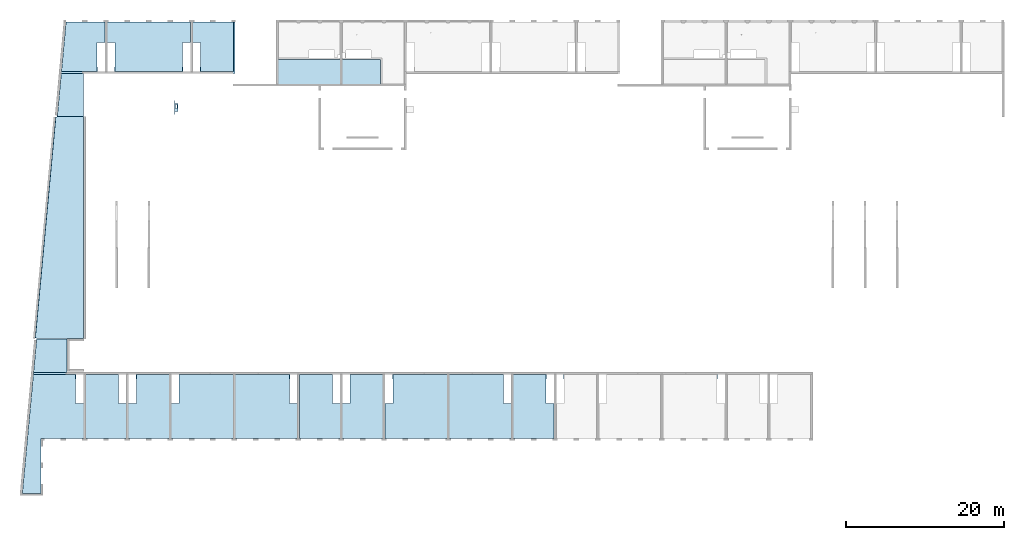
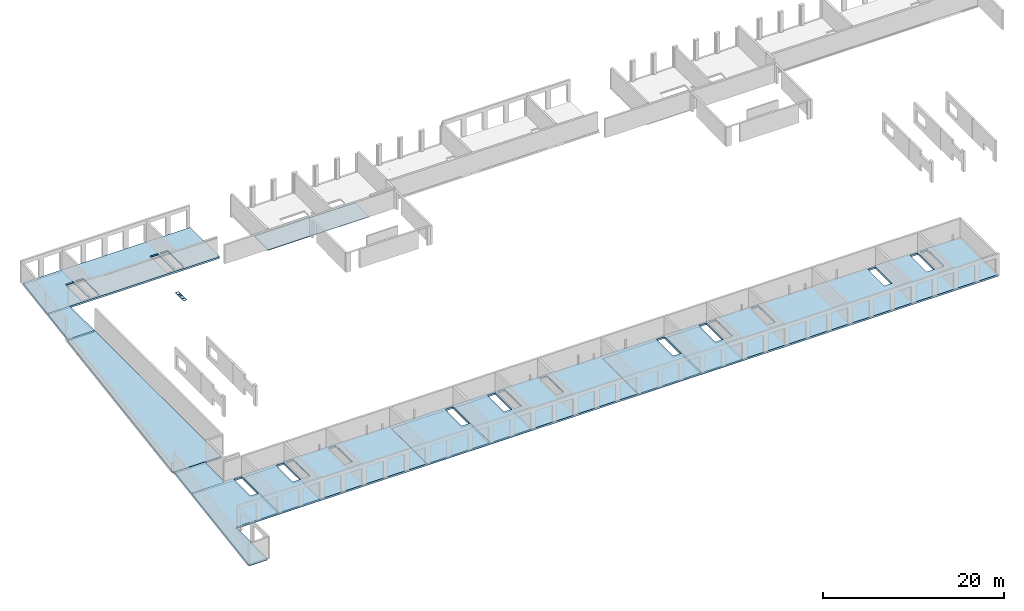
# One storey, part 2 of 12: 21 slabs, 42 openings.
"""IFC2X3 building model written with IfcOpenShell, lengths in millimetres."""

import ifcopenshell
import ifcopenshell.guid

model = None  # the IFC model being written
_history = None  # IfcOwnerHistory: only IFC2X3 demands one
_inside = {}  # id of a spatial element -> (the spatial element, [elements in it])
_under = {}  # id of a project, library or spatial element -> (it, [spatial elements below it])
_declared = {}  # id of a project -> (the project, [libraries it declares])
_typed = {}  # id of a type object -> (the type object, [elements of that type])
_made_of = {}  # id of a material, layer set ... -> (it, [elements and type objects made of it])


def new_model(schema):
    """Start an empty IFC model of exactly this schema.

    Asked for "IFC4X3", IfcOpenShell would pick the latest addendum, in which some entities
    have other attributes; the version numbers below select the first issue.
    IFC2X3 requires an IfcOwnerHistory on every rooted entity: one is made here for all.
    """
    global model, _history
    if schema == "IFC4X3":
        model = ifcopenshell.file(schema_version=(4, 3, 0, 0))
    else:
        model = ifcopenshell.file(schema=schema)
    _inside.clear()
    _under.clear()
    _declared.clear()
    _typed.clear()
    _made_of.clear()
    _history = None
    if model.schema == "IFC2X3":
        org = make("IfcOrganization", Name="unknown")
        user = make(
            "IfcPersonAndOrganization",
            ThePerson=make("IfcPerson", FamilyName="unknown"),
            TheOrganization=org,
        )
        app = make(
            "IfcApplication",
            ApplicationDeveloper=org,
            Version="unknown",
            ApplicationFullName="unknown",
            ApplicationIdentifier="unknown",
        )
        _history = make(
            "IfcOwnerHistory",
            OwningUser=user,
            OwningApplication=app,
            ChangeAction="ADDED",
            CreationDate=0,
        )
    return model


def make(cls, **values):
    """One entity of the class cls with the attributes given. An attribute that is None is left unset."""
    return model.create_entity(
        cls, **{name: value for name, value in values.items() if value is not None}
    )


def entity(cls, *values):
    """Any entity or typed value of the class cls, its attributes in the order of the schema. None: left unset."""
    e = model.create_entity(cls)
    for i, value in enumerate(values):
        if value is not None:
            e[i] = value
    return e


def rooted(cls, **values):
    """An entity with a GlobalId (a new one), such as an element, a storey or a relation."""
    return make(cls, GlobalId=ifcopenshell.guid.new(), OwnerHistory=_history, **values)


def si_unit(unit_type, name, prefix=None):
    """IfcSIUnit, for example si_unit("LENGTHUNIT", "METRE", prefix="MILLI")."""
    return make("IfcSIUnit", UnitType=unit_type, Prefix=prefix, Name=name)


def converted_unit(unit_type, name, factor, base, dimensions=None, offset=None):
    """IfcConversionBasedUnit, such as the inch: factor (a typed value) times the base unit."""
    return make(
        "IfcConversionBasedUnit"
        if offset is None
        else "IfcConversionBasedUnitWithOffset",
        ConversionOffset=offset,
        Dimensions=None
        if dimensions is None
        else entity("IfcDimensionalExponents", *dimensions),
        UnitType=unit_type,
        Name=name,
        ConversionFactor=make(
            "IfcMeasureWithUnit", ValueComponent=factor, UnitComponent=base
        ),
    )


def derived_unit(unit_type, elements):
    """IfcDerivedUnit: a product of units, each with its exponent."""
    return make(
        "IfcDerivedUnit",
        Elements=[
            make("IfcDerivedUnitElement", Unit=unit, Exponent=power)
            for unit, power in elements
        ],
        UnitType=unit_type,
    )


def assignment(units):
    """IfcUnitAssignment: the units of a project."""
    return None if units is None else make("IfcUnitAssignment", Units=units)


def point(xyz):
    """IfcCartesianPoint."""
    return None if xyz is None else make("IfcCartesianPoint", Coordinates=xyz)


def direction(xyz):
    """IfcDirection."""
    return None if xyz is None else make("IfcDirection", DirectionRatios=xyz)


def frame(location, z_axis=None, x_axis=None):
    """IfcAxis2Placement3D, a coordinate frame: its origin and axes. An axis left out is left unset."""
    return make(
        "IfcAxis2Placement3D",
        Location=point(location),
        Axis=direction(z_axis),
        RefDirection=direction(x_axis),
    )


def frame_2d(location, x_axis=None):
    """IfcAxis2Placement2D, a coordinate frame in the plane: its origin and x axis."""
    return make(
        "IfcAxis2Placement2D", Location=point(location), RefDirection=direction(x_axis)
    )


def origin():
    """The frame at (0, 0, 0) with its axes left unset."""
    return frame((0.0, 0.0, 0.0))


def origin_2d_with_axis():
    """The frame at (0, 0) in the plane with the x axis (1, 0) written out."""
    return frame_2d((0.0, 0.0), x_axis=(1.0, 0.0))


def place(relative_to, where):
    """IfcLocalPlacement: puts the frame where relative to a parent placement (None: the world)."""
    return make(
        "IfcLocalPlacement", PlacementRelTo=relative_to, RelativePlacement=where
    )


def context(
    kind, dimensions, precision=None, world=None, true_north=None, identifier=None
):
    """IfcGeometricRepresentationContext, for example the 3D "Model" context."""
    return make(
        "IfcGeometricRepresentationContext",
        ContextIdentifier=identifier,
        ContextType=kind,
        CoordinateSpaceDimension=dimensions,
        Precision=precision,
        WorldCoordinateSystem=world,
        TrueNorth=true_north,
    )


def subcontext(parent, identifier, kind, view, scale=None):
    """IfcGeometricRepresentationSubContext, for example "Body" below "Model"."""
    return make(
        "IfcGeometricRepresentationSubContext",
        ContextIdentifier=identifier,
        ContextType=kind,
        ParentContext=parent,
        TargetScale=scale,
        TargetView=view,
    )


def project(units=None, contexts=None):
    """IfcProject with its units and contexts."""
    return rooted(
        "IfcProject",
        Name="project",
        RepresentationContexts=contexts,
        UnitsInContext=assignment(units),
    )


def spatial(cls, under=None, at=None, **own):
    """A site, building, storey or space (cls), placed at a placement, below another one or the project."""
    s = rooted(cls, ObjectPlacement=at, **own)
    if under is not None:
        _under.setdefault(under.id(), (under, []))[1].append(s)
    return s


def polyline(points):
    """IfcPolyline through the points."""
    return make("IfcPolyline", Points=[point(p) for p in points])


def profile(cls, at=None, kind="AREA", **sizes):
    """A parametric profile (cls). Its sizes go by their IFC names, for example OverallWidth=200.0."""
    return make(cls, ProfileType=kind, Position=at, **sizes)


def rectangle(**sizes):
    """IfcRectangleProfileDef."""
    return profile("IfcRectangleProfileDef", **sizes)


def outline(outer, holes=None, kind="AREA"):
    """IfcArbitraryClosedProfileDef: a profile drawn as a closed curve; with holes, ...WithVoids."""
    if holes is None:
        return make("IfcArbitraryClosedProfileDef", ProfileType=kind, OuterCurve=outer)
    return make(
        "IfcArbitraryProfileDefWithVoids",
        ProfileType=kind,
        OuterCurve=outer,
        InnerCurves=holes,
    )


def extrude(swept, where, along, depth):
    """IfcExtrudedAreaSolid: the profile swept, set in the frame where, extruded along a direction by depth."""
    return make(
        "IfcExtrudedAreaSolid",
        SweptArea=swept,
        Position=where,
        ExtrudedDirection=direction(along),
        Depth=depth,
    )


def shape(context_of_items, identifier, shape_type, items):
    """IfcShapeRepresentation: the items that make up one representation, for example the "Body"."""
    return make(
        "IfcShapeRepresentation",
        ContextOfItems=context_of_items,
        RepresentationIdentifier=identifier,
        RepresentationType=shape_type,
        Items=items,
    )


def material(Name=None, Category=None):
    """IfcMaterial."""
    return make("IfcMaterial", Name=Name, Category=Category)


def layer(
    of_material, thickness, ventilated=None, Name=None, Category=None, Priority=None
):
    """IfcMaterialLayer: one layer of a wall or slab, of a material (None: an air gap)."""
    return make(
        "IfcMaterialLayer",
        Material=of_material,
        LayerThickness=thickness,
        IsVentilated=ventilated,
        Name=Name,
        Category=Category,
        Priority=Priority,
    )


def layer_set(layers, Name=None):
    """IfcMaterialLayerSet."""
    return make("IfcMaterialLayerSet", MaterialLayers=layers, LayerSetName=Name)


def layer_usage(for_layer_set, set_direction, sense, offset, extent=None):
    """IfcMaterialLayerSetUsage: how a layer set lies in its element."""
    return make(
        "IfcMaterialLayerSetUsage",
        ForLayerSet=for_layer_set,
        LayerSetDirection=set_direction,
        DirectionSense=sense,
        OffsetFromReferenceLine=offset,
        ReferenceExtent=extent,
    )


def made_of(thing, what):
    """Note that an element or type object is made of a material, layer set ...; save() writes the relation."""
    if what is not None:
        _made_of.setdefault(what.id(), (what, []))[1].append(thing)
    return thing


def element(
    cls,
    number,
    at=None,
    inside=None,
    cuts=None,
    type_object=None,
    material=None,
    context=None,
    identifier="Body",
    shape_type=None,
    held_by="IfcProductDefinitionShape",
    body=None,
    shapes=None,
    **own,
):
    """One element of the class cls, such as IfcWall. Its Tag is "e" and its number.

    at: its placement. inside: the storey or other place that contains it. cuts: it is an
    opening in that element (IfcRelVoidsElement). A single representation is given by context,
    identifier, shape_type and body (its items); several are given by shapes. held_by: the class
    of the entity that holds the representations. save() writes the other relations.
    """
    e = rooted(cls, Tag="e%d" % number, ObjectPlacement=at, **own)
    if body is not None:
        shapes = [shape(context, identifier, shape_type, body)]
    if shapes is not None:
        e.Representation = make(held_by, Representations=shapes)
    if inside is not None:
        _inside.setdefault(inside.id(), (inside, []))[1].append(e)
    if cuts is not None:
        rooted(
            "IfcRelVoidsElement", RelatingBuildingElement=cuts, RelatedOpeningElement=e
        )
    if type_object is not None:
        _typed.setdefault(type_object.id(), (type_object, []))[1].append(e)
    return made_of(e, material)


def aggregate(whole, parts):
    """IfcRelAggregates: a whole, such as a stair, and the parts it consists of."""
    return rooted("IfcRelAggregates", RelatingObject=whole, RelatedObjects=parts)


def save(model, path):
    """Write the relations noted so far, then the file.

    IfcRelAggregates (storeys below a building ...), IfcRelContainedInSpatialStructure (elements
    in a storey), IfcRelDefinesByType, IfcRelAssociatesMaterial and IfcRelDeclares: one each for
    every whole, place, type object, material and project.
    """
    for whole, parts in _under.values():
        aggregate(whole, parts)
    for where, things in _inside.values():
        rooted(
            "IfcRelContainedInSpatialStructure",
            RelatedElements=things,
            RelatingStructure=where,
        )
    for kind, things in _typed.values():
        rooted("IfcRelDefinesByType", RelatedObjects=things, RelatingType=kind)
    for what, things in _made_of.values():
        rooted("IfcRelAssociatesMaterial", RelatedObjects=things, RelatingMaterial=what)
    for by, libraries in _declared.values():
        rooted("IfcRelDeclares", RelatingContext=by, RelatedDefinitions=libraries)
    model.write(path)


model = new_model("IFC2X3")

# Units and contexts
model_context = context("Model", 3, precision=0.01, world=origin(), true_north=direction((6.12303176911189e-17, 1.0)))
body_context = subcontext(model_context, "Body", "Model", "MODEL_VIEW")
ifc_project = project(units=[si_unit("LENGTHUNIT", "METRE", prefix="MILLI"), si_unit("AREAUNIT", "SQUARE_METRE"), si_unit("VOLUMEUNIT", "CUBIC_METRE"), converted_unit("PLANEANGLEUNIT", "DEGREE", entity("IfcRatioMeasure", 0.0174532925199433), si_unit("PLANEANGLEUNIT", "RADIAN"), dimensions=[0, 0, 0, 0, 0, 0, 0]), si_unit("MASSUNIT", "GRAM", prefix="KILO"), derived_unit("MASSDENSITYUNIT", [(si_unit("MASSUNIT", "GRAM", prefix="KILO"), 1), (si_unit("LENGTHUNIT", "METRE"), -3)]), si_unit("TIMEUNIT", "SECOND"), si_unit("FREQUENCYUNIT", "HERTZ"), si_unit("THERMODYNAMICTEMPERATUREUNIT", "DEGREE_CELSIUS"), derived_unit("THERMALTRANSMITTANCEUNIT", [(si_unit("MASSUNIT", "GRAM", prefix="KILO"), 1), (si_unit("THERMODYNAMICTEMPERATUREUNIT", "KELVIN"), -1), (si_unit("TIMEUNIT", "SECOND"), -3)]), derived_unit("VOLUMETRICFLOWRATEUNIT", [(si_unit("LENGTHUNIT", "METRE"), 3), (si_unit("TIMEUNIT", "SECOND"), -1)]), si_unit("ELECTRICCURRENTUNIT", "AMPERE"), si_unit("ELECTRICVOLTAGEUNIT", "VOLT"), si_unit("POWERUNIT", "WATT"), si_unit("FORCEUNIT", "NEWTON", prefix="KILO"), si_unit("ILLUMINANCEUNIT", "LUX"), si_unit("LUMINOUSFLUXUNIT", "LUMEN"), si_unit("LUMINOUSINTENSITYUNIT", "CANDELA"), derived_unit("USERDEFINED", [(si_unit("MASSUNIT", "GRAM", prefix="KILO"), -1), (si_unit("LENGTHUNIT", "METRE"), -2), (si_unit("TIMEUNIT", "SECOND"), 3), (si_unit("LUMINOUSFLUXUNIT", "LUMEN"), 1)]), derived_unit("LINEARVELOCITYUNIT", [(si_unit("LENGTHUNIT", "METRE"), 1), (si_unit("TIMEUNIT", "SECOND"), -1)]), si_unit("PRESSUREUNIT", "PASCAL"), derived_unit("USERDEFINED", [(si_unit("LENGTHUNIT", "METRE"), -2), (si_unit("MASSUNIT", "GRAM", prefix="KILO"), 1), (si_unit("TIMEUNIT", "SECOND"), -2)])], contexts=[model_context])

# Site, building, storey
site_placement = place(None, origin())
site = spatial("IfcSite", under=ifc_project, at=site_placement, Name="Default", CompositionType="ELEMENT")
building_placement = place(site_placement, origin())
building = spatial("IfcBuilding", under=site, at=building_placement, Name="niet gebruiken", CompositionType="ELEMENT")
storey_placement = place(building_placement, frame((0.0, 0.0, 6660.0)))
storey = spatial("IfcBuildingStorey", under=building, at=storey_placement, Name="02 tweede verdieping", CompositionType="ELEMENT", Elevation=6660.00000000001)

# Slab, openings
ifc_material_1 = material(Name="NLRS_f2_beton ihwg")
ifc_layer_1 = layer(ifc_material_1, 250.0)
ifc_layer_set_1 = layer_set([ifc_layer_1], Name="Floor:NLRS_23.21_FL_breedplaat d=70/250_schil apart_gen")
ifc_layer_usage_1 = layer_usage(ifc_layer_set_1, "AXIS3", "POSITIVE", 0.0)
slab_1_placement = place(storey_placement, frame((4621.46449529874, 41061.0, -340.0)))
slab_1 = element("IfcSlab", 1, at=slab_1_placement, inside=storey, material=ifc_layer_usage_1, Name="Floor:NLRS_23.21_FL_breedplaat d=70/250_schil apart_gen", ObjectType="Floor:NLRS_23.21_FL_breedplaat d=70/250_schil apart_gen", PredefinedType="FLOOR", context=body_context, shape_type="SweptSolid", body=[
    extrude(outline(polyline([(10132.0254614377, 5972.49999999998), (-11239.2677523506, 5972.49999999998), (-11239.2677523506, -537.500000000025), (7885.73224764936, -537.499999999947), (7885.73224764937, -5972.49999999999), (11239.2677523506, -5972.49999999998), (11222.573548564, -5792.40187164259), (10132.0254614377, 5972.49999999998)])), frame((11239.2677523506, 5972.49999999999, 250.0), z_axis=(0.0, 0.0, -1.0), x_axis=(-1.0, 0.0, 0.0)), (0.0, 0.0, 1.0), 249.999999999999),
])
opening_1_placement = place(slab_1_placement, origin())
element("IfcOpeningElement", 2, at=opening_1_placement, cuts=slab_1, ObjectType="Opening", context=body_context, shape_type="SweptSolid", body=[
    extrude(rectangle(XDim=580.000000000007, YDim=970.000000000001, at=origin_2d_with_axis()), frame((5568.53550470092, 5975.0, 0.0), z_axis=(0.0, 0.0, 1.0), x_axis=(0.0, -1.0, 0.0)), (0.0, 0.0, 1.0), 249.999999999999),
])
opening_2_placement = place(slab_1_placement, origin())
element("IfcOpeningElement", 3, at=opening_2_placement, cuts=slab_1, ObjectType="Opening", context=body_context, shape_type="SweptSolid", body=[
    extrude(rectangle(XDim=1000.0, YDim=3100.00000000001, at=origin_2d_with_axis()), frame((5553.53550470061, 7815.0, 0.0), z_axis=(0.0, 0.0, 1.0), x_axis=(-1.0, 0.0, 0.0)), (0.0, 0.0, 1.0), 250.000000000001),
])
opening_3_placement = place(slab_1_placement, origin())
element("IfcOpeningElement", 4, at=opening_3_placement, cuts=slab_1, ObjectType="Opening", context=body_context, shape_type="SweptSolid", body=[
    extrude(rectangle(XDim=580.000000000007, YDim=970.0, at=origin_2d_with_axis()), frame((6788.53550470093, 5975.0, 0.0), z_axis=(0.0, 0.0, 1.0), x_axis=(0.0, -1.0, 0.0)), (0.0, 0.0, 1.0), 249.999999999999),
])
opening_4_placement = place(slab_1_placement, origin())
element("IfcOpeningElement", 5, at=opening_4_placement, cuts=slab_1, ObjectType="Opening", context=body_context, shape_type="SweptSolid", body=[
    extrude(rectangle(XDim=3100.00000000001, YDim=1000.0, at=origin_2d_with_axis()), frame((6803.53550470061, 7815.0, 0.0), z_axis=(0.0, 0.0, 1.0), x_axis=(0.0, -1.0, 0.0)), (0.0, 0.0, 1.0), 250.000000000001),
])
opening_5_placement = place(slab_1_placement, origin())
element("IfcOpeningElement", 6, at=opening_5_placement, cuts=slab_1, ObjectType="Opening", context=body_context, shape_type="SweptSolid", body=[
    extrude(rectangle(XDim=1000.0, YDim=3100.00000000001, at=origin_2d_with_axis()), frame((17603.5355047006, 7815.0, 0.0), z_axis=(0.0, 0.0, 1.0), x_axis=(-1.0, 0.0, 0.0)), (0.0, 0.0, 1.0), 250.000000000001),
])
opening_6_placement = place(slab_1_placement, origin())
element("IfcOpeningElement", 7, at=opening_6_placement, cuts=slab_1, ObjectType="Opening", context=body_context, shape_type="SweptSolid", body=[
    extrude(rectangle(XDim=580.000000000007, YDim=970.0, at=origin_2d_with_axis()), frame((17588.5355047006, 5975.0, 0.0), z_axis=(0.0, 0.0, 1.0), x_axis=(0.0, -1.0, 0.0)), (0.0, 0.0, 1.0), 249.999999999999),
])
opening_7_placement = place(slab_1_placement, origin())
element("IfcOpeningElement", 8, at=opening_7_placement, cuts=slab_1, ObjectType="Opening", context=body_context, shape_type="SweptSolid", body=[
    extrude(rectangle(XDim=1000.0, YDim=3100.00000000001, at=origin_2d_with_axis()), frame((16353.5355047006, 7815.0, 0.0), z_axis=(0.0, 0.0, 1.0), x_axis=(-1.0, 0.0, 0.0)), (0.0, 0.0, 1.0), 250.000000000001),
])
opening_8_placement = place(slab_1_placement, origin())
element("IfcOpeningElement", 9, at=opening_8_placement, cuts=slab_1, ObjectType="Opening", context=body_context, shape_type="SweptSolid", body=[
    extrude(rectangle(XDim=580.000000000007, YDim=970.0, at=origin_2d_with_axis()), frame((16368.5355047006, 5975.0, 0.0), z_axis=(0.0, 0.0, 1.0), x_axis=(0.0, -1.0, 0.0)), (0.0, 0.0, 1.0), 249.999999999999),
])

ifc_layer_usage_2 = layer_usage(ifc_layer_set_1, "AXIS3", "POSITIVE", 0.0)
slab_2_placement = place(storey_placement, frame((205.382258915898, -6580.0, -340.0)))
slab_2 = element("IfcSlab", 10, at=slab_2_placement, inside=storey, material=ifc_layer_usage_2, Name="Floor:NLRS_23.21_FL_breedplaat d=70/250_schil apart_gen", ObjectType="Floor:NLRS_23.21_FL_breedplaat d=70/250_schil apart_gen", PredefinedType="FLOOR", context=body_context, shape_type="SweptSolid", body=[
    extrude(outline(polyline([(50293.3272470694, -7627.45000057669), (48493.8581047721, 11785.4753232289), (48479.6689420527, 11938.5499994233), (44623.7095059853, 11938.5499994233), (44623.7095059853, 7698.54999942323), (-49526.2904940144, 7698.54999942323), (-49526.2904940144, -647.450000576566), (47898.7095059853, -647.450000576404), (47898.7095059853, -7627.4500005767), (50293.3272470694, -7627.45000057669)])), frame((50293.3272470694, 7627.4500005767, 250.0), z_axis=(0.0, 0.0, -1.0), x_axis=(-1.0, 0.0, 0.0)), (0.0, 0.0, 1.0), 250.0),
])
opening_9_placement = place(slab_2_placement, origin())
element("IfcOpeningElement", 11, at=opening_9_placement, cuts=slab_2, ObjectType="Opening", context=body_context, shape_type="SweptSolid", body=[
    extrude(rectangle(XDim=3100.0, YDim=1000.0, at=origin_2d_with_axis()), frame((7269.61774108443, 12946.0, 0.0), z_axis=(0.0, 0.0, 1.0), x_axis=(0.0, 1.0, 0.0)), (0.0, 0.0, 1.0), 250.000000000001),
])
opening_10_placement = place(slab_2_placement, origin())
element("IfcOpeningElement", 12, at=opening_10_placement, cuts=slab_2, ObjectType="Opening", context=body_context, shape_type="SweptSolid", body=[
    extrude(rectangle(XDim=970.000000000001, YDim=580.000000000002, at=origin_2d_with_axis()), frame((7284.61774108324, 14786.0, 0.0)), (0.0, 0.0, 1.0), 249.999999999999),
])
opening_11_placement = place(slab_2_placement, origin())
element("IfcOpeningElement", 13, at=opening_11_placement, cuts=slab_2, ObjectType="Opening", context=body_context, shape_type="SweptSolid", body=[
    extrude(rectangle(XDim=3100.0, YDim=1000.0, at=origin_2d_with_axis()), frame((13919.6177410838, 12946.0, 0.0), z_axis=(0.0, 0.0, 1.0), x_axis=(0.0, 1.0, 0.0)), (0.0, 0.0, 1.0), 250.000000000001),
])
opening_12_placement = place(slab_2_placement, origin())
element("IfcOpeningElement", 14, at=opening_12_placement, cuts=slab_2, ObjectType="Opening", context=body_context, shape_type="SweptSolid", body=[
    extrude(rectangle(XDim=970.0, YDim=580.000000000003, at=origin_2d_with_axis()), frame((13904.6177410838, 14786.0, 0.0)), (0.0, 0.0, 1.0), 249.999999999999),
])
opening_13_placement = place(slab_2_placement, origin())
element("IfcOpeningElement", 15, at=opening_13_placement, cuts=slab_2, ObjectType="Opening", context=body_context, shape_type="SweptSolid", body=[
    extrude(rectangle(XDim=3100.0, YDim=1000.0, at=origin_2d_with_axis()), frame((12669.6177410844, 12946.0, 0.0), z_axis=(0.0, 0.0, 1.0), x_axis=(0.0, 1.0, 0.0)), (0.0, 0.0, 1.0), 250.000000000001),
])
opening_14_placement = place(slab_2_placement, origin())
element("IfcOpeningElement", 16, at=opening_14_placement, cuts=slab_2, ObjectType="Opening", context=body_context, shape_type="SweptSolid", body=[
    extrude(rectangle(XDim=970.0, YDim=580.000000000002, at=origin_2d_with_axis()), frame((12684.6177410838, 14786.0, 0.0)), (0.0, 0.0, 1.0), 249.999999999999),
])
opening_15_placement = place(slab_2_placement, origin())
element("IfcOpeningElement", 17, at=opening_15_placement, cuts=slab_2, ObjectType="Opening", context=body_context, shape_type="SweptSolid", body=[
    extrude(rectangle(XDim=3100.0, YDim=1000.0, at=origin_2d_with_axis()), frame((19319.6177410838, 12946.0, 0.0), z_axis=(0.0, 0.0, 1.0), x_axis=(0.0, 1.0, 0.0)), (0.0, 0.0, 1.0), 250.000000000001),
])
opening_16_placement = place(slab_2_placement, origin())
element("IfcOpeningElement", 18, at=opening_16_placement, cuts=slab_2, ObjectType="Opening", context=body_context, shape_type="SweptSolid", body=[
    extrude(rectangle(XDim=970.0, YDim=580.000000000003, at=origin_2d_with_axis()), frame((19304.6177410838, 14786.0, 0.0)), (0.0, 0.0, 1.0), 249.999999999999),
])
opening_17_placement = place(slab_2_placement, origin())
element("IfcOpeningElement", 19, at=opening_17_placement, cuts=slab_2, ObjectType="Opening", context=body_context, shape_type="SweptSolid", body=[
    extrude(rectangle(XDim=3100.0, YDim=1000.0, at=origin_2d_with_axis()), frame((34269.6177410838, 12946.0, 0.0), z_axis=(0.0, 0.0, 1.0), x_axis=(0.0, 1.0, 0.0)), (0.0, 0.0, 1.0), 250.000000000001),
])
opening_18_placement = place(slab_2_placement, origin())
element("IfcOpeningElement", 20, at=opening_18_placement, cuts=slab_2, ObjectType="Opening", context=body_context, shape_type="SweptSolid", body=[
    extrude(rectangle(XDim=970.0, YDim=580.000000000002, at=origin_2d_with_axis()), frame((34284.6177410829, 14786.0, 0.0)), (0.0, 0.0, 1.0), 249.999999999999),
])
opening_19_placement = place(slab_2_placement, origin())
element("IfcOpeningElement", 21, at=opening_19_placement, cuts=slab_2, ObjectType="Opening", context=body_context, shape_type="SweptSolid", body=[
    extrude(rectangle(XDim=3100.0, YDim=999.999999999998, at=origin_2d_with_axis()), frame((40919.6177410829, 12946.0, 0.0), z_axis=(0.0, 0.0, 1.0), x_axis=(0.0, 1.0, 0.0)), (0.0, 0.0, 1.0), 250.000000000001),
])
opening_20_placement = place(slab_2_placement, origin())
element("IfcOpeningElement", 22, at=opening_20_placement, cuts=slab_2, ObjectType="Opening", context=body_context, shape_type="SweptSolid", body=[
    extrude(rectangle(XDim=970.000000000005, YDim=580.000000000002, at=origin_2d_with_axis()), frame((40904.6177410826, 14786.0, 0.0)), (0.0, 0.0, 1.0), 249.999999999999),
])
opening_21_placement = place(slab_2_placement, origin())
element("IfcOpeningElement", 23, at=opening_21_placement, cuts=slab_2, ObjectType="Opening", context=body_context, shape_type="SweptSolid", body=[
    extrude(rectangle(XDim=3100.0, YDim=999.999999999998, at=origin_2d_with_axis()), frame((39669.6177410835, 12946.0, 0.0), z_axis=(0.0, 0.0, 1.0), x_axis=(0.0, 1.0, 0.0)), (0.0, 0.0, 1.0), 250.000000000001),
])
opening_22_placement = place(slab_2_placement, origin())
element("IfcOpeningElement", 24, at=opening_22_placement, cuts=slab_2, ObjectType="Opening", context=body_context, shape_type="SweptSolid", body=[
    extrude(rectangle(XDim=970.000000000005, YDim=580.000000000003, at=origin_2d_with_axis()), frame((39684.6177410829, 14786.0, 0.0)), (0.0, 0.0, 1.0), 249.999999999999),
])
opening_23_placement = place(slab_2_placement, origin())
element("IfcOpeningElement", 25, at=opening_23_placement, cuts=slab_2, ObjectType="Opening", context=body_context, shape_type="SweptSolid", body=[
    extrude(rectangle(XDim=3100.0, YDim=999.999999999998, at=origin_2d_with_axis()), frame((46319.6177410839, 12946.0, 0.0), z_axis=(0.0, 0.0, 1.0), x_axis=(0.0, 1.0, 0.0)), (0.0, 0.0, 1.0), 250.000000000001),
])
opening_24_placement = place(slab_2_placement, origin())
element("IfcOpeningElement", 26, at=opening_24_placement, cuts=slab_2, ObjectType="Opening", context=body_context, shape_type="SweptSolid", body=[
    extrude(rectangle(XDim=970.000000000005, YDim=580.000000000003, at=origin_2d_with_axis()), frame((46304.6177410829, 14786.0, 0.0)), (0.0, 0.0, 1.0), 249.999999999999),
])
opening_25_placement = place(slab_2_placement, origin())
element("IfcOpeningElement", 27, at=opening_25_placement, cuts=slab_2, ObjectType="Opening", context=body_context, shape_type="SweptSolid", body=[
    extrude(rectangle(XDim=3100.0, YDim=999.999999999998, at=origin_2d_with_axis()), frame((61269.6177410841, 12946.0, 0.0), z_axis=(0.0, 0.0, 1.0), x_axis=(0.0, 1.0, 0.0)), (0.0, 0.0, 1.0), 250.000000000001),
])
opening_26_placement = place(slab_2_placement, origin())
element("IfcOpeningElement", 28, at=opening_26_placement, cuts=slab_2, ObjectType="Opening", context=body_context, shape_type="SweptSolid", body=[
    extrude(rectangle(XDim=970.000000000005, YDim=580.000000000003, at=origin_2d_with_axis()), frame((61284.6177410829, 14786.0, 0.0)), (0.0, 0.0, 1.0), 249.999999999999),
])
opening_27_placement = place(slab_2_placement, origin())
element("IfcOpeningElement", 29, at=opening_27_placement, cuts=slab_2, ObjectType="Opening", context=body_context, shape_type="SweptSolid", body=[
    extrude(rectangle(XDim=3100.0, YDim=999.999999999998, at=origin_2d_with_axis()), frame((67919.6177410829, 12946.0, 0.0), z_axis=(0.0, 0.0, 1.0), x_axis=(0.0, 1.0, 0.0)), (0.0, 0.0, 1.0), 250.000000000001),
])
opening_28_placement = place(slab_2_placement, origin())
element("IfcOpeningElement", 30, at=opening_28_placement, cuts=slab_2, ObjectType="Opening", context=body_context, shape_type="SweptSolid", body=[
    extrude(rectangle(XDim=970.000000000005, YDim=580.000000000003, at=origin_2d_with_axis()), frame((67904.6177410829, 14786.0, 0.0)), (0.0, 0.0, 1.0), 249.999999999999),
])
opening_29_placement = place(slab_2_placement, origin())
element("IfcOpeningElement", 31, at=opening_29_placement, cuts=slab_2, ObjectType="Opening", context=body_context, shape_type="SweptSolid", body=[
    extrude(rectangle(XDim=3100.0, YDim=999.999999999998, at=origin_2d_with_axis()), frame((66669.6177410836, 12946.0, 0.0), z_axis=(0.0, 0.0, 1.0), x_axis=(0.0, 1.0, 0.0)), (0.0, 0.0, 1.0), 250.000000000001),
])
opening_30_placement = place(slab_2_placement, origin())
element("IfcOpeningElement", 32, at=opening_30_placement, cuts=slab_2, ObjectType="Opening", context=body_context, shape_type="SweptSolid", body=[
    extrude(rectangle(XDim=970.000000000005, YDim=580.000000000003, at=origin_2d_with_axis()), frame((66684.6177410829, 14786.0, 0.0)), (0.0, 0.0, 1.0), 249.999999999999),
])
opening_31_placement = place(slab_2_placement, origin())
element("IfcOpeningElement", 33, at=opening_31_placement, cuts=slab_2, ObjectType="Opening", context=body_context, shape_type="SweptSolid", body=[
    extrude(rectangle(XDim=3100.0, YDim=999.999999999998, at=origin_2d_with_axis()), frame((73319.6177410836, 12946.0, 0.0), z_axis=(0.0, 0.0, 1.0), x_axis=(0.0, 1.0, 0.0)), (0.0, 0.0, 1.0), 250.000000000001),
])
opening_32_placement = place(slab_2_placement, origin())
element("IfcOpeningElement", 34, at=opening_32_placement, cuts=slab_2, ObjectType="Opening", context=body_context, shape_type="SweptSolid", body=[
    extrude(rectangle(XDim=970.000000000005, YDim=580.000000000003, at=origin_2d_with_axis()), frame((73304.6177410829, 14786.0, 0.0)), (0.0, 0.0, 1.0), 249.999999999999),
])
opening_33_placement = place(slab_2_placement, origin())
element("IfcOpeningElement", 35, at=opening_33_placement, cuts=slab_2, ObjectType="Opening", context=body_context, shape_type="SweptSolid", body=[
    extrude(rectangle(XDim=3100.0, YDim=999.999999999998, at=origin_2d_with_axis()), frame((88269.6177410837, 12946.0, 0.0), z_axis=(0.0, 0.0, 1.0), x_axis=(0.0, 1.0, 0.0)), (0.0, 0.0, 1.0), 250.000000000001),
])
opening_34_placement = place(slab_2_placement, origin())
element("IfcOpeningElement", 36, at=opening_34_placement, cuts=slab_2, ObjectType="Opening", context=body_context, shape_type="SweptSolid", body=[
    extrude(rectangle(XDim=970.000000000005, YDim=580.000000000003, at=origin_2d_with_axis()), frame((88284.6177410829, 14786.0, 0.0)), (0.0, 0.0, 1.0), 249.999999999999),
])
opening_35_placement = place(slab_2_placement, origin())
element("IfcOpeningElement", 37, at=opening_35_placement, cuts=slab_2, ObjectType="Opening", context=body_context, shape_type="SweptSolid", body=[
    extrude(rectangle(XDim=3100.0, YDim=999.999999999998, at=origin_2d_with_axis()), frame((93669.6177410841, 12946.0, 0.0), z_axis=(0.0, 0.0, 1.0), x_axis=(0.0, 1.0, 0.0)), (0.0, 0.0, 1.0), 250.000000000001),
])
opening_36_placement = place(slab_2_placement, origin())
element("IfcOpeningElement", 38, at=opening_36_placement, cuts=slab_2, ObjectType="Opening", context=body_context, shape_type="SweptSolid", body=[
    extrude(rectangle(XDim=970.000000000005, YDim=580.000000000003, at=origin_2d_with_axis()), frame((93684.6177410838, 14786.0, 0.0)), (0.0, 0.0, 1.0), 249.999999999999),
])
opening_37_placement = place(slab_2_placement, origin())
element("IfcOpeningElement", 39, at=opening_37_placement, cuts=slab_2, ObjectType="Opening", context=body_context, shape_type="SweptSolid", body=[
    extrude(rectangle(XDim=3100.0, YDim=999.999999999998, at=origin_2d_with_axis()), frame((94919.6177410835, 12946.0, 0.0), z_axis=(0.0, 0.0, 1.0), x_axis=(0.0, 1.0, 0.0)), (0.0, 0.0, 1.0), 250.000000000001),
])
opening_38_placement = place(slab_2_placement, origin())
element("IfcOpeningElement", 40, at=opening_38_placement, cuts=slab_2, ObjectType="Opening", context=body_context, shape_type="SweptSolid", body=[
    extrude(rectangle(XDim=970.000000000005, YDim=580.000000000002, at=origin_2d_with_axis()), frame((94904.6177410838, 14786.0, 0.0)), (0.0, 0.0, 1.0), 249.999999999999),
])

# Slabs
ifc_material_2 = material(Name="NLRS_f2_beton prefab")
ifc_layer_2 = layer(ifc_material_2, 200.0)
ifc_layer_set_2 = layer_set([ifc_layer_2], Name="Floor:NLRS_23.21_FL_kanaalplaat d=200_gen")
ifc_layer_usage_3 = layer_usage(ifc_layer_set_2, "AXIS3", "POSITIVE", 0.0)
slab_3_placement = place(storey_placement, origin())
element("IfcSlab", 41, at=slab_3_placement, inside=storey, material=ifc_layer_usage_3, Name="Floor:NLRS_23.21_FL_kanaalplaat d=200_gen", ObjectType="Floor:NLRS_23.21_FL_kanaalplaat d=200_gen", PredefinedType="FLOOR", context=body_context, shape_type="SweptSolid", body=[
    extrude(outline(polyline([(-3505.03478615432, -14032.4934392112), (2408.98502353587, -14032.4934392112), (2400.27853506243, -13938.5666212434), (2579.51018056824, -13921.9528543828), (-3.92934390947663, 13948.5548350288), (-183.189801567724, 13931.9383974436), (-191.585021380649, 14022.5065607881), (-3505.03478615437, 14022.5065607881), (-3505.03478615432, -14032.4934392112)])), frame((4449.96521384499, 27038.4934392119, -140.0), z_axis=(0.0, 0.0, -1.0), x_axis=(-1.0, 0.0, 0.0)), (0.0, 0.0, 1.0), 200.0),
])
ifc_layer_3 = layer(ifc_material_1, 50.0)
ifc_layer_set_3 = layer_set([ifc_layer_3], Name="Floor:NLRS_23.21_FL_druklaag d=50_gen")
ifc_layer_usage_4 = layer_usage(ifc_layer_set_3, "AXIS3", "POSITIVE", 0.0)
slab_4_placement = place(storey_placement, origin())
element("IfcSlab", 42, at=slab_4_placement, inside=storey, material=ifc_layer_usage_4, Name="Floor:NLRS_23.21_FL_druklaag d=50_gen", ObjectType="Floor:NLRS_23.21_FL_druklaag d=50_gen", PredefinedType="FLOOR", context=body_context, shape_type="SweptSolid", body=[
    extrude(outline(polyline([(-3242.02111435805, -11242.7246600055), (-1172.02111435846, -11242.7246600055), (-1172.02111435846, -11222.7246600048), (2712.0844340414, -11222.7246600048), (2705.05280823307, -11146.8664952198), (2884.28445373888, -11130.2527283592), (297.157113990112, 16780.0396290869), (117.943725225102, 16763.4275545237), (111.5619222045, 16832.2753399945), (-3242.0211143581, 16832.2753399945), (-3242.02111435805, -11242.7246600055)])), frame((4732.97888564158, 24228.7246600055, -90.0), z_axis=(0.0, 0.0, -1.0), x_axis=(-1.0, 0.0, 0.0)), (0.0, 0.0, 1.0), 50.0000000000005),
])
ifc_layer_4 = layer(ifc_material_2, 70.0)
ifc_layer_set_4 = layer_set([ifc_layer_4], Name="Floor:NLRS_23.21_FL_breedplaatschil d=70_gen")
ifc_layer_usage_5 = layer_usage(ifc_layer_set_4, "AXIS3", "POSITIVE", 0.0)
slab_5_placement = place(storey_placement, origin())
element("IfcSlab", 43, at=slab_5_placement, inside=storey, material=ifc_layer_usage_5, Name="Floor:NLRS_23.21_FL_breedplaatschil d=70_gen", ObjectType="Floor:NLRS_23.21_FL_breedplaatschil d=70_gen", PredefinedType="FLOOR", context=body_context, shape_type="SweptSolid", body=[
    extrude(outline(polyline([(-4164.0, -3120.0), (3932.0, -3120.0), (3932.0, 1050.0), (232.0, 1050.0), (232.0, 2070.0), (-4164.0, 2070.0), (-4164.0, -3120.0)])), frame((11325.0, 4584.0, -270.0), z_axis=(0.0, 0.0, -1.0), x_axis=(0.0, 1.0, 0.0)), (0.0, 0.0, 1.0), 70.0000000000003),
])
ifc_layer_usage_6 = layer_usage(ifc_layer_set_4, "AXIS3", "POSITIVE", 0.0)
slab_6_placement = place(storey_placement, origin())
element("IfcSlab", 44, at=slab_6_placement, inside=storey, material=ifc_layer_usage_6, Name="Floor:NLRS_23.21_FL_breedplaatschil d=70_gen", ObjectType="Floor:NLRS_23.21_FL_breedplaatschil d=70_gen", PredefinedType="FLOOR", context=body_context, shape_type="SweptSolid", body=[
    extrude(outline(polyline([(-4164.0, -2070.0), (232.0, -2070.0), (232.0, -1050.0), (3932.0, -1050.0), (3932.0, 3120.0), (-4164.0, 3120.0), (-4164.0, -2070.0)])), frame((15675.0, 4584.0, -270.0), z_axis=(0.0, 0.0, -1.0), x_axis=(0.0, 1.0, 0.0)), (0.0, 0.0, 1.0), 70.0000000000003),
])
ifc_layer_usage_7 = layer_usage(ifc_layer_set_4, "AXIS3", "POSITIVE", 0.0)
slab_7_placement = place(storey_placement, origin())
element("IfcSlab", 45, at=slab_7_placement, inside=storey, material=ifc_layer_usage_7, Name="Floor:NLRS_23.21_FL_breedplaatschil d=70_gen", ObjectType="Floor:NLRS_23.21_FL_breedplaatschil d=70_gen", PredefinedType="FLOOR", context=body_context, shape_type="SweptSolid", body=[
    extrude(outline(polyline([(-4164.0, -2970.0), (232.0, -2970.0), (232.0, -1950.0), (3932.0, -1950.0), (3932.0, 4920.0), (-4164.0, 4920.0), (-4164.0, -2970.0)])), frame((21975.0, 4584.0, -270.0), z_axis=(0.0, 0.0, -1.0), x_axis=(0.0, 1.0, 0.0)), (0.0, 0.0, 1.0), 70.0000000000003),
])
ifc_layer_usage_8 = layer_usage(ifc_layer_set_4, "AXIS3", "POSITIVE", 0.0)
slab_8_placement = place(storey_placement, origin())
element("IfcSlab", 46, at=slab_8_placement, inside=storey, material=ifc_layer_usage_8, Name="Floor:NLRS_23.21_FL_breedplaatschil d=70_gen", ObjectType="Floor:NLRS_23.21_FL_breedplaatschil d=70_gen", PredefinedType="FLOOR", context=body_context, shape_type="SweptSolid", body=[
    extrude(outline(polyline([(-4164.0, -4920.0), (3932.0, -4920.0), (3932.0, 1950.0), (232.0, 1950.0), (232.0, 2970.0), (-4164.0, 2970.0), (-4164.0, -4920.0)])), frame((32025.0, 4584.0, -270.0), z_axis=(0.0, 0.0, -1.0), x_axis=(0.0, 1.0, 0.0)), (0.0, 0.0, 1.0), 70.0000000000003),
])
ifc_layer_usage_9 = layer_usage(ifc_layer_set_4, "AXIS3", "POSITIVE", 0.0)
slab_9_placement = place(storey_placement, origin())
element("IfcSlab", 47, at=slab_9_placement, inside=storey, material=ifc_layer_usage_9, Name="Floor:NLRS_23.21_FL_breedplaatschil d=70_gen", ObjectType="Floor:NLRS_23.21_FL_breedplaatschil d=70_gen", PredefinedType="FLOOR", context=body_context, shape_type="SweptSolid", body=[
    extrude(outline(polyline([(-4164.0, -3120.0), (3932.0, -3120.0), (3932.0, 1050.0), (232.0, 1050.0), (232.0, 2070.0), (-4164.0, 2070.0), (-4164.0, -3120.0)])), frame((38325.0, 4584.0, -270.0), z_axis=(0.0, 0.0, -1.0), x_axis=(0.0, 1.0, 0.0)), (0.0, 0.0, 1.0), 70.0000000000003),
])
ifc_layer_usage_10 = layer_usage(ifc_layer_set_4, "AXIS3", "POSITIVE", 0.0)
slab_10_placement = place(storey_placement, origin())
element("IfcSlab", 48, at=slab_10_placement, inside=storey, material=ifc_layer_usage_10, Name="Floor:NLRS_23.21_FL_breedplaatschil d=70_gen", ObjectType="Floor:NLRS_23.21_FL_breedplaatschil d=70_gen", PredefinedType="FLOOR", context=body_context, shape_type="SweptSolid", body=[
    extrude(outline(polyline([(-4164.0, -2070.0), (232.0, -2070.0), (232.0, -1050.0), (3932.0, -1050.0), (3932.0, 3120.0), (-4164.0, 3120.0), (-4164.0, -2070.0)])), frame((42675.0, 4584.0, -270.0), z_axis=(0.0, 0.0, -1.0), x_axis=(0.0, 1.0, 0.0)), (0.0, 0.0, 1.0), 70.0000000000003),
])
ifc_layer_usage_11 = layer_usage(ifc_layer_set_4, "AXIS3", "POSITIVE", 0.0)
slab_11_placement = place(storey_placement, origin())
element("IfcSlab", 49, at=slab_11_placement, inside=storey, material=ifc_layer_usage_11, Name="Floor:NLRS_23.21_FL_breedplaatschil d=70_gen", ObjectType="Floor:NLRS_23.21_FL_breedplaatschil d=70_gen", PredefinedType="FLOOR", context=body_context, shape_type="SweptSolid", body=[
    extrude(outline(polyline([(-4164.0, -3120.0), (3932.0, -3120.0), (3932.0, 1050.0), (232.0, 1050.0), (232.0, 2070.0), (-4164.0, 2070.0), (-4164.0, -3120.0)])), frame((65325.0, 4584.0, -270.0), z_axis=(0.0, 0.0, -1.0), x_axis=(0.0, 1.0, 0.0)), (0.0, 0.0, 1.0), 70.0000000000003),
])
ifc_layer_usage_12 = layer_usage(ifc_layer_set_4, "AXIS3", "POSITIVE", 0.0)
slab_12_placement = place(storey_placement, origin())
element("IfcSlab", 50, at=slab_12_placement, inside=storey, material=ifc_layer_usage_12, Name="Floor:NLRS_23.21_FL_breedplaatschil d=70_gen", ObjectType="Floor:NLRS_23.21_FL_breedplaatschil d=70_gen", PredefinedType="FLOOR", context=body_context, shape_type="SweptSolid", body=[
    extrude(outline(polyline([(-4164.0, -2970.0), (232.0, -2970.0), (232.0, -1950.0), (3932.0, -1950.0), (3932.0, 4920.0), (-4164.0, 4920.0), (-4164.0, -2970.0)])), frame((48975.0, 4584.0, -270.0), z_axis=(0.0, 0.0, -1.0), x_axis=(0.0, 1.0, 0.0)), (0.0, 0.0, 1.0), 70.0000000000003),
])
ifc_layer_usage_13 = layer_usage(ifc_layer_set_4, "AXIS3", "POSITIVE", 0.0)
slab_13_placement = place(storey_placement, origin())
element("IfcSlab", 51, at=slab_13_placement, inside=storey, material=ifc_layer_usage_13, Name="Floor:NLRS_23.21_FL_breedplaatschil d=70_gen", ObjectType="Floor:NLRS_23.21_FL_breedplaatschil d=70_gen", PredefinedType="FLOOR", context=body_context, shape_type="SweptSolid", body=[
    extrude(outline(polyline([(-4164.0, -4920.0), (3932.0, -4920.0), (3932.0, 1950.0), (232.0, 1950.0), (232.0, 2970.0), (-4164.0, 2970.0), (-4164.0, -4920.0)])), frame((59025.0, 4584.0, -270.0), z_axis=(0.0, 0.0, -1.0), x_axis=(0.0, 1.0, 0.0)), (0.0, 0.0, 1.0), 70.0000000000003),
])
ifc_layer_usage_14 = layer_usage(ifc_layer_set_4, "AXIS3", "POSITIVE", 0.0)
slab_14_placement = place(storey_placement, frame((227.321885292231, -6560.0, -340.0)))
element("IfcSlab", 52, at=slab_14_placement, inside=storey, material=ifc_layer_usage_14, Name="Floor:NLRS_23.21_FL_breedplaatschil d=70_gen", ObjectType="Floor:NLRS_23.21_FL_breedplaatschil d=70_gen", PredefinedType="FLOOR", context=body_context, shape_type="SweptSolid", body=[
    extrude(outline(polyline([(-2863.83905735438, 5303.0), (-2863.83905735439, 1603.0), (-3883.83905735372, 1603.0), (-3883.83905735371, -2793.0), (1531.16094264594, -2793.0), (1531.16094264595, -9773.0), (3883.83905735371, -9773.0), (2486.37853366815, 5303.0), (-2863.83905735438, 5303.0)])), frame((3883.83905735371, 9773.0, 70.0), z_axis=(0.0, 0.0, -1.0), x_axis=(-1.0, 0.0, 0.0)), (0.0, 0.0, 1.0), 70.0000000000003),
])
slab_15_placement = place(storey_placement, frame((227.321885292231, -6560.0, -340.0)))
element("IfcSlab", 53, at=slab_15_placement, inside=storey, material=ifc_layer_usage_14, Name="Floor:NLRS_23.21_FL_breedplaatschil d=70_gen:2", ObjectType="Floor:NLRS_23.21_FL_breedplaatschil d=70_gen", PredefinedType="FLOOR", context=body_context, shape_type="SweptSolid", body=[
    extrude(outline(polyline([(2466.91271316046, 5513.0), (2072.03464000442, 9773.0), (-1763.83905735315, 9773.0), (-1763.83905735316, 5513.0), (2466.91271316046, 5513.0)])), frame((3883.83905735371, 9773.0, 70.0), z_axis=(0.0, 0.0, -1.0), x_axis=(-1.0, 0.0, 0.0)), (0.0, 0.0, 1.0), 70.0000000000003),
])
ifc_layer_usage_15 = layer_usage(ifc_layer_set_4, "AXIS3", "POSITIVE", 0.0)
slab_16_placement = place(storey_placement, origin())
element("IfcSlab", 54, at=slab_16_placement, inside=storey, material=ifc_layer_usage_15, Name="Floor:NLRS_23.21_FL_breedplaatschil d=70_gen", ObjectType="Floor:NLRS_23.21_FL_breedplaatschil d=70_gen", PredefinedType="FLOOR", context=body_context, shape_type="SweptSolid", body=[
    extrude(outline(polyline([(-1066.06561997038, -3320.0), (3442.26672512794, -3320.0), (2861.99575475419, 2940.0), (-2086.06561997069, 2940.0), (-2086.0656199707, 380.0), (-1066.06561997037, 380.0), (-1066.06561997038, -3320.0)])), frame((8608.93438002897, 50046.0, -270.0), z_axis=(0.0, 0.0, -1.0), x_axis=(-1.0, 0.0, 0.0)), (0.0, 0.0, 1.0), 70.0000000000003),
])
ifc_layer_usage_16 = layer_usage(ifc_layer_set_4, "AXIS3", "POSITIVE", 0.0)
slab_17_placement = place(storey_placement, origin())
element("IfcSlab", 55, at=slab_17_placement, inside=storey, material=ifc_layer_usage_16, Name="Floor:NLRS_23.21_FL_breedplaatschil d=70_gen", ObjectType="Floor:NLRS_23.21_FL_breedplaatschil d=70_gen", PredefinedType="FLOOR", context=body_context, shape_type="SweptSolid", body=[
    extrude(outline(polyline([(-1527.81201723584, -2727.50000000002), (1780.63774753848, -2727.50000000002), (1274.9862869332, 2727.50000000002), (-1527.81201723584, 2727.50000000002), (-1527.81201723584, -2727.50000000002)])), frame((6422.18798276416, 43788.5, -270.0), z_axis=(0.0, 0.0, -1.0), x_axis=(-1.0, 0.0, 0.0)), (0.0, 0.0, 1.0), 70.0000000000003),
])
ifc_layer_usage_17 = layer_usage(ifc_layer_set_4, "AXIS3", "POSITIVE", 0.0)
slab_18_placement = place(storey_placement, origin())
element("IfcSlab", 56, at=slab_18_placement, inside=storey, material=ifc_layer_usage_17, Name="Floor:NLRS_23.21_FL_breedplaatschil d=70_gen", ObjectType="Floor:NLRS_23.21_FL_breedplaatschil d=70_gen", PredefinedType="FLOOR", context=body_context, shape_type="SweptSolid", body=[
    extrude(outline(polyline([(285.0, -5295.0), (2845.0, -5295.0), (2845.0, 5295.0), (285.0, 5295.0), (285.0, 4275.0), (-3415.0, 4275.0), (-3415.0, -4275.0), (285.0, -4275.0), (285.0, -5295.0)])), frame((16200.0, 50141.0, -270.0), z_axis=(0.0, 0.0, -1.0), x_axis=(0.0, 1.0, 0.0)), (0.0, 0.0, 1.0), 70.0000000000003),
])
ifc_layer_usage_18 = layer_usage(ifc_layer_set_4, "AXIS3", "POSITIVE", 0.0)
slab_19_placement = place(storey_placement, origin())
element("IfcSlab", 57, at=slab_19_placement, inside=storey, material=ifc_layer_usage_18, Name="Floor:NLRS_23.21_FL_breedplaatschil d=70_gen", ObjectType="Floor:NLRS_23.21_FL_breedplaatschil d=70_gen", PredefinedType="FLOOR", context=body_context, shape_type="SweptSolid", body=[
    extrude(outline(polyline([(380.0, -2061.66666666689), (2940.0, -2061.66666666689), (2940.0, 3103.33333333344), (-3320.0, 3103.33333333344), (-3320.0, -1041.66666666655), (380.0, -1041.66666666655), (380.0, -2061.66666666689)])), frame((23766.6666666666, 50046.0, -270.0), z_axis=(0.0, 0.0, -1.0), x_axis=(0.0, 1.0, 0.0)), (0.0, 0.0, 1.0), 70.0000000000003),
])
ifc_layer_usage_19 = layer_usage(ifc_layer_set_4, "AXIS3", "POSITIVE", 0.0)
slab_20_placement = place(storey_placement, origin())
element("IfcSlab", 58, at=slab_20_placement, inside=storey, material=ifc_layer_usage_19, Name="Floor:NLRS_23.21_FL_breedplaatschil d=70_gen", ObjectType="Floor:NLRS_23.21_FL_breedplaatschil d=70_gen", PredefinedType="FLOOR", context=body_context, shape_type="SweptSolid", body=[
    extrude(rectangle(XDim=3109.99999999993, YDim=12914.9999999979, at=origin_2d_with_axis()), frame((38987.4999999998, 46691.0, -270.0), z_axis=(0.0, 0.0, -1.0), x_axis=(0.0, 1.0, 0.0)), (0.0, 0.0, 1.0), 70.0000000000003),
])

# Slab, openings
ifc_layer_usage_20 = layer_usage(ifc_layer_set_4, "AXIS3", "POSITIVE", 0.0)
slab_21_placement = place(storey_placement, frame((19470.0, 41311.0, -300.0)))
slab_21 = element("IfcSlab", 59, at=slab_21_placement, inside=storey, material=ifc_layer_usage_20, Name="Floor:NLRS_23.21_FL_breedplaatschil d=70_gen", ObjectType="Floor:NLRS_23.21_FL_breedplaatschil d=70_gen", PredefinedType="FLOOR", context=body_context, shape_type="SweptSolid", body=[
    extrude(rectangle(XDim=450.000000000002, YDim=1800.00000000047, at=frame_2d((0.0, 0.0), x_axis=(-1.0, 0.0))), frame((225.0, 900.0, 70.0), z_axis=(0.0, 0.0, -1.0), x_axis=(-1.0, 0.0, 0.0)), (0.0, 0.0, 1.0), 70.0000000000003),
])
opening_39_placement = place(slab_21_placement, origin())
element("IfcOpeningElement", 60, at=opening_39_placement, cuts=slab_21, ObjectType="Opening", context=body_context, shape_type="SweptSolid", body=[
    extrude(rectangle(XDim=200.000000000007, YDim=200.000000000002, at=origin_2d_with_axis()), frame((223.999734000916, 1148.80953099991, 0.0), z_axis=(0.0, 0.0, 1.0), x_axis=(0.0, -1.0, 0.0)), (0.0, 0.0, 1.0), 249.999999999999),
])
opening_40_placement = place(slab_21_placement, origin())
element("IfcOpeningElement", 61, at=opening_40_placement, cuts=slab_21, ObjectType="Opening", context=body_context, shape_type="SweptSolid", body=[
    extrude(rectangle(XDim=350.000000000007, YDim=350.000000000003, at=origin_2d_with_axis()), frame((223.99973400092, 1599.99953099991, 0.0), z_axis=(0.0, 0.0, 1.0), x_axis=(0.0, -1.0, 0.0)), (0.0, 0.0, 1.0), 249.999999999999),
])
opening_41_placement = place(slab_21_placement, origin())
element("IfcOpeningElement", 62, at=opening_41_placement, cuts=slab_21, ObjectType="Opening", context=body_context, shape_type="SweptSolid", body=[
    extrude(rectangle(XDim=200.000000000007, YDim=200.000000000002, at=origin_2d_with_axis()), frame((223.999734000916, 898.809530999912, 0.0), z_axis=(0.0, 0.0, 1.0), x_axis=(0.0, -1.0, 0.0)), (0.0, 0.0, 1.0), 249.999999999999),
])
opening_42_placement = place(slab_21_placement, origin())
element("IfcOpeningElement", 63, at=opening_42_placement, cuts=slab_21, ObjectType="Opening", context=body_context, shape_type="SweptSolid", body=[
    extrude(rectangle(XDim=350.000000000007, YDim=350.000000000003, at=origin_2d_with_axis()), frame((223.999734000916, 200.159530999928, 0.0), z_axis=(0.0, 0.0, 1.0), x_axis=(0.0, -1.0, 0.0)), (0.0, 0.0, 1.0), 249.999999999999),
])

save(model, "model.ifc")
